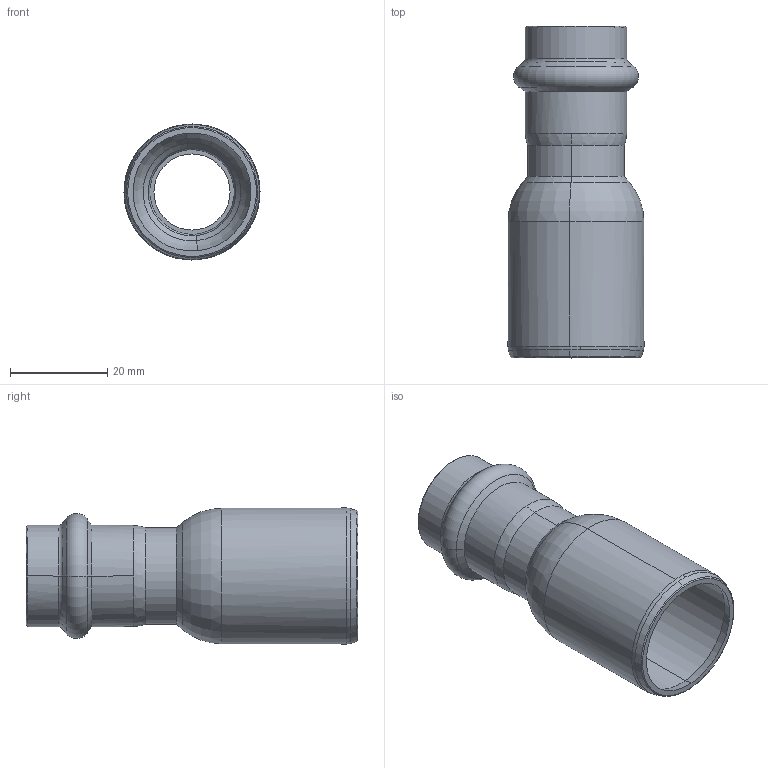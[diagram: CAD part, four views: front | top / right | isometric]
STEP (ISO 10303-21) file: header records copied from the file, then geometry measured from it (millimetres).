
FILE_DESCRIPTION(('CoCreate Modeling STEP Export'),'2;1');
FILE_NAME('8243VW2818.stp','2013-03-05T 9:25:21',(''),(''),'CoCreate Modeling STEP processor for AP214 (Solid Model)','CoCreate Modeling 17.00A 17-Jun-2010 (C) Parametric Technology GmbH','');
FILE_SCHEMA(('AUTOMOTIVE_DESIGN { 1 0 10303 214 1 1 1 1 }'));
Length unit declared in the file: millimetre
Products named in the file (2): 8243VW2818
Assembly tree (1 placements, depth 2):
  8243VW2818
    8243VW2818
Bounding box: 28 x 68.3 x 28 mm (x, y, z)
Volume: 7328.3 mm3; surface area: 10532 mm2
Topology: 1 solids, 1 shells, 62 faces, 140 edges, 82 vertices
Faces by surface type: cone 20, torus 20, cylinder 18, plane 4
Entity records: 1413 total; most frequent: ORIENTED_EDGE 280, DIRECTION 214, CARTESIAN_POINT 208, EDGE_CURVE 140, AXIS2_PLACEMENT_3D 88, VERTEX_POINT 82, EDGE_LOOP 66, FACE_OUTER_BOUND 62
